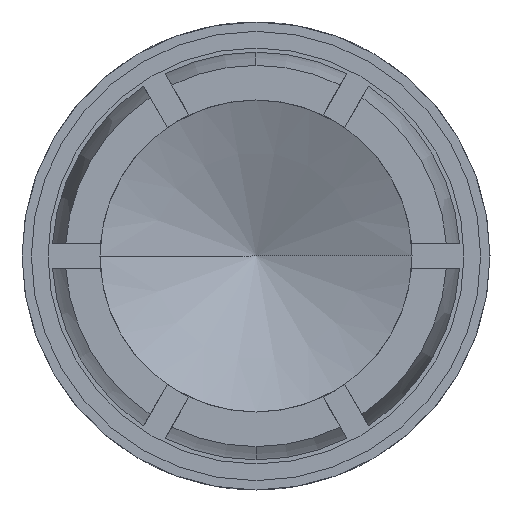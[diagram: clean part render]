
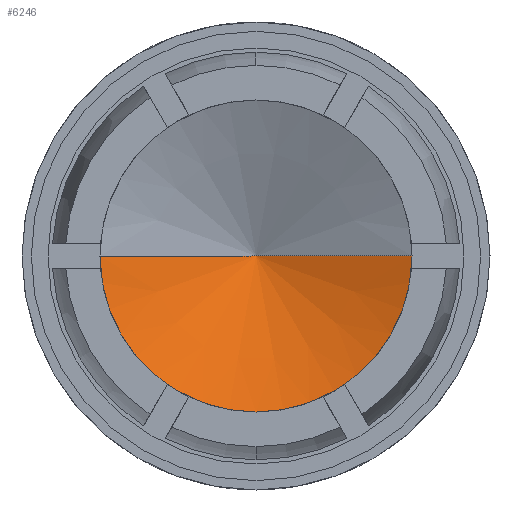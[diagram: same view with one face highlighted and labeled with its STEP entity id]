
A CAD part, left-side view. The second image highlights one B-rep face of the part: STEP entity #6246.
In plain terms, the highlighted conical face has half-angle 67.5 degrees and reference radius 2414.21 mm.
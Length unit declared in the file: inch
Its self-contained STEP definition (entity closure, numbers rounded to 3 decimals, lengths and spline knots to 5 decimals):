
#316 = VERTEX_POINT ( 'NONE', #4394 ) ;
#1344 = AXIS2_PLACEMENT_3D ( 'NONE', #1748, #6074, #2373 ) ;
#1577 = VECTOR ( 'NONE', #6268, 39.37008 ) ;
#1579 = FACE_OUTER_BOUND ( 'NONE', #6970, .T. ) ;
#1748 = CARTESIAN_POINT ( 'NONE',  ( -0.1875, 0., 0. ) ) ;
#1767 = ORIENTED_EDGE ( 'NONE', *, *, #6848, .F. ) ;
#1954 = CARTESIAN_POINT ( 'NONE',  ( -0.03217, 0., 0. ) ) ;
#2373 = DIRECTION ( 'NONE',  ( 0., 1., 0. ) ) ;
#3395 = LINE ( 'NONE', #1954, #1577 ) ;
#4006 = VERTEX_POINT ( 'NONE', #7808 ) ;
#4394 = CARTESIAN_POINT ( 'NONE',  ( -0.1875, 0.375, 0. ) ) ;
#4579 = CARTESIAN_POINT ( 'NONE',  ( -0.03217, 0., 0. ) ) ;
#4704 = DIRECTION ( 'NONE',  ( -1., 0., 0. ) ) ;
#4742 = ORIENTED_EDGE ( 'NONE', *, *, #5581, .T. ) ;
#5193 = DIRECTION ( 'NONE',  ( -0.383, -0.924, 0. ) ) ;
#5454 = EDGE_CURVE ( 'NONE', #7570, #316, #3395, .T. ) ;
#5581 = EDGE_CURVE ( 'NONE', #7570, #4006, #7187, .T. ) ;
#6074 = DIRECTION ( 'NONE',  ( 1., 0., 0. ) ) ;
#6246 = ADVANCED_FACE ( 'NONE', ( #1579 ), #7385, .F. ) ;
#6268 = DIRECTION ( 'NONE',  ( -0.383, 0.924, 0. ) ) ;
#6294 = CARTESIAN_POINT ( 'NONE',  ( -0.03217, 0., 0. ) ) ;
#6422 = ORIENTED_EDGE ( 'NONE', *, *, #5454, .F. ) ;
#6564 = DIRECTION ( 'NONE',  ( 0., -1., 0. ) ) ;
#6602 = CIRCLE ( 'NONE', #1344, 0.375 ) ;
#6848 = EDGE_CURVE ( 'NONE', #316, #4006, #6602, .T. ) ;
#6970 = EDGE_LOOP ( 'NONE', ( #6422, #4742, #1767 ) ) ;
#6993 = VECTOR ( 'NONE', #5193, 39.37008 ) ;
#7165 = CARTESIAN_POINT ( 'NONE',  ( -39.40225, 0., 0. ) ) ;
#7187 = LINE ( 'NONE', #4579, #6993 ) ;
#7385 = CONICAL_SURFACE ( 'NONE', #7614, 95.04778, 1.178 ) ;
#7570 = VERTEX_POINT ( 'NONE', #6294 ) ;
#7614 = AXIS2_PLACEMENT_3D ( 'NONE', #7165, #4704, #6564 ) ;
#7808 = CARTESIAN_POINT ( 'NONE',  ( -0.1875, -0.375, 0. ) ) ;
